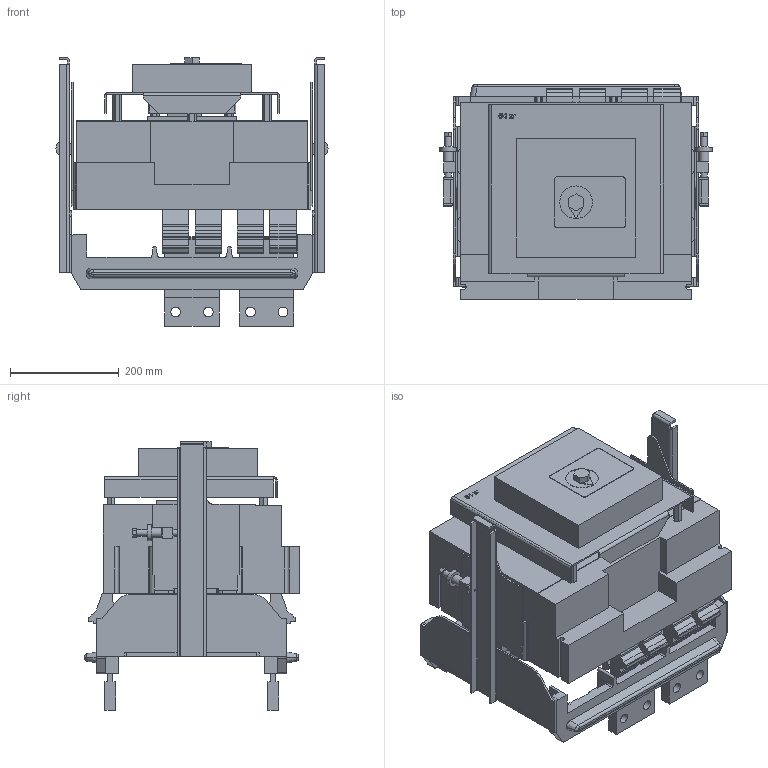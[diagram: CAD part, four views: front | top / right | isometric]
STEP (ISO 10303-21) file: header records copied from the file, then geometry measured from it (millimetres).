
FILE_DESCRIPTION (( 'STEP AP214' ), '1' );
FILE_NAME ('ÂÀ 56-43 DC âûäâèæíîå èñïîëíåíèå ñ ýëåêòðîìàãíèòíûì ïðèâîäîì 1600À.STEP', '2023-02-13T06:20:23', ( '' ), ( '' ), 'SwSTEP 2.0', 'SolidWorks 2018', '' );
FILE_SCHEMA (( 'AUTOMOTIVE_DESIGN' ));
Length unit declared in the file: millimetre
Products named in the file (1): ÂÀ 56-43 DC âûäâèæíîå èñïîëíåíèå ñ ýëåêòðîìàãíèòíûì ïðèâîäîì 1600À
Bounding box: 501 x 395 x 494.6 mm (x, y, z)
Volume: 33397797.4 mm3; surface area: 2279612.6 mm2
Topology: 2 solids, 2 shells, 1185 faces, 3538 edges, 2357 vertices
Faces by surface type: plane 881, cylinder 294, bspline 8, cone 2
Full cylindrical faces by diameter (mm): 12 x6, 12.2 x2, 13.2 x4, 18 x14, 30 x2, 60 x1
Entity records: 40097 total; most frequent: CARTESIAN_POINT 7736, ORIENTED_EDGE 6980, DIRECTION 6404, EDGE_CURVE 3490, LINE 2820, VECTOR 2820, VERTEX_POINT 2340, AXIS2_PLACEMENT_3D 1792
